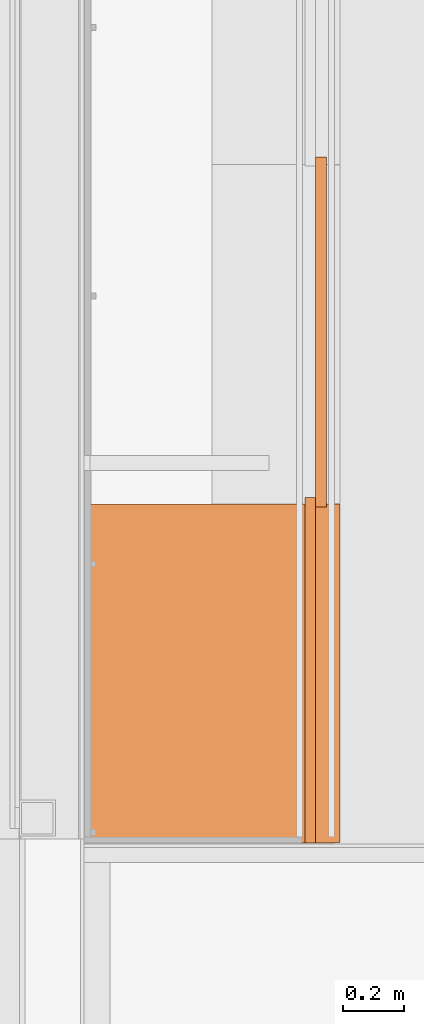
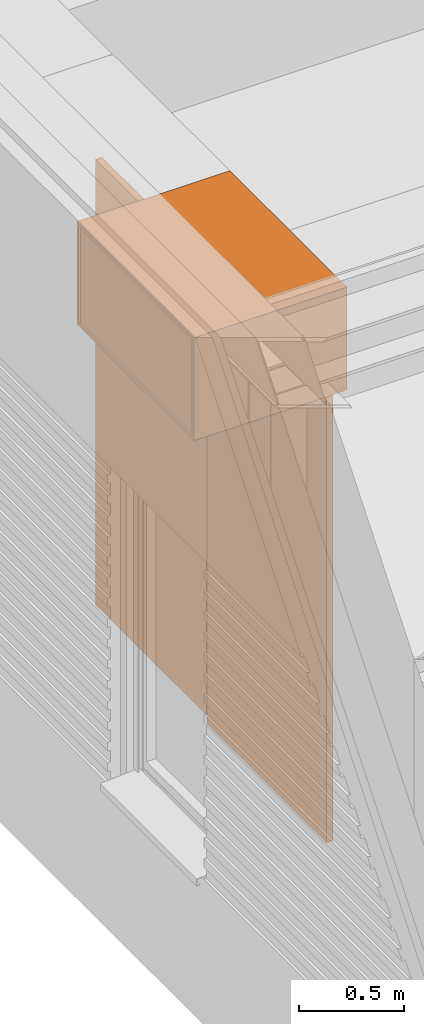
# One storey, part 121 of 137: 3 proxies.
"""IFC2X3 building model written with IfcOpenShell, lengths in millimetres."""

from ifc_helpers import new_model, entity, si_unit, converted_unit, derived_unit, money_unit, direction, frame, origin_with_axes, place, context, subcontext, project, spatial, faceted_brep, source, transform, mapped, type_object, type_shapes, element, save


model = new_model("IFC2X3")

# Units and contexts
model_context = context("Model", 3, precision=0.01, world=origin_with_axes(), true_north=direction((0.0, 1.0)))
body_context = subcontext(model_context, "Body", "Model", "MODEL_VIEW")
ifc_project = project(units=[si_unit("LENGTHUNIT", "METRE", prefix="MILLI"), si_unit("AREAUNIT", "SQUARE_METRE"), si_unit("VOLUMEUNIT", "CUBIC_METRE"), converted_unit("PLANEANGLEUNIT", "DEGREE", entity("IfcPlaneAngleMeasure", 0.0174532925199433), si_unit("PLANEANGLEUNIT", "RADIAN"), dimensions=[0, 0, 0, 0, 0, 0, 0]), money_unit("EUR"), converted_unit("TIMEUNIT", "Year", entity("IfcTimeMeasure", 31556926.0), si_unit("TIMEUNIT", "SECOND"), dimensions=[0, 0, 1, 0, 0, 0, 0]), si_unit("MASSUNIT", "GRAM", prefix="KILO"), si_unit("THERMODYNAMICTEMPERATUREUNIT", "DEGREE_CELSIUS"), si_unit("LUMINOUSINTENSITYUNIT", "LUMEN"), si_unit("ENERGYUNIT", "JOULE", prefix="MEGA"), derived_unit("THERMALCONDUCTANCEUNIT", [(si_unit("POWERUNIT", "WATT"), 1), (si_unit("LENGTHUNIT", "METRE"), -1), (si_unit("THERMODYNAMICTEMPERATUREUNIT", "KELVIN"), -1)]), derived_unit("SPECIFICHEATCAPACITYUNIT", [(si_unit("ENERGYUNIT", "JOULE"), 1), (si_unit("MASSUNIT", "GRAM", prefix="KILO"), -1), (si_unit("THERMODYNAMICTEMPERATUREUNIT", "KELVIN"), -1)]), derived_unit("MASSDENSITYUNIT", [(si_unit("MASSUNIT", "GRAM", prefix="KILO"), 1), (si_unit("VOLUMEUNIT", "CUBIC_METRE"), -1)])], contexts=[model_context])

# Site, building, storey
site_placement = place(None, origin_with_axes())
site = spatial("IfcSite", under=ifc_project, at=site_placement, Name="Site", CompositionType="ELEMENT")
building_placement = place(site_placement, origin_with_axes())
building = spatial("IfcBuilding", under=site, at=building_placement, Name="Naam gebouw", CompositionType="ELEMENT")
storey_placement = place(building_placement, frame((0.0, 0.0, 3960.0), z_axis=(0.0, 0.0, 1.0), x_axis=(1.0, 0.0, 0.0)))
storey = spatial("IfcBuildingStorey", under=building, at=storey_placement, Name="1e verdieping", CompositionType="ELEMENT", Elevation=3960.0)

# Proxies
building_element_proxy_type_1 = type_object("IfcBuildingElementProxyType", Name="gevelbekleding", PredefinedType="NOTDEFINED")
shared_shape_1 = source(origin_with_axes(), body_context, "Body", "Brep", [
    faceted_brep([(577.5, 0.0, 0.0), (577.5, -35.0, 0.0), (572.5, -35.0, 0.0), (572.5, 0.0, 0.0), (577.5, 0.0, 2600.0), (577.5, -35.0, 2600.0), (572.5, -35.0, 2600.0), (572.5, 0.0, 2600.0)], [[[0, 1, 2, 3]], [[4, 5, 1, 0]], [[1, 5, 6, 2]], [[3, 2, 6, 7]], [[0, 3, 7, 4]], [[7, 6, 5, 4]]]),
    faceted_brep([(-577.5, 0.0, 0.0), (-577.5, -35.0, 0.0), (-577.5, -35.0, 2600.0), (-577.5, 0.0, 2600.0), (-572.5000000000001, 0.0, 0.0), (-572.5000000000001, -35.0, 0.0), (-572.5000000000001, -35.0, 2600.0), (-572.5000000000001, 0.0, 2600.0)], [[[0, 1, 2, 3]], [[4, 5, 1, 0]], [[1, 5, 6, 2]], [[3, 2, 6, 7]], [[0, 3, 7, 4]], [[7, 6, 5, 4]]]),
    faceted_brep([(577.5, 0.0, 0.0), (577.5, -35.0, 0.0), (-577.5, -35.0, 0.0), (-577.5, 0.0, 0.0), (577.5, 0.0, 2600.0), (577.5, -35.0, 2600.0), (-577.5, -35.0, 2600.0), (-577.5, 0.0, 2600.0)], [[[0, 1, 2, 3]], [[4, 5, 1, 0]], [[1, 5, 6, 2]], [[3, 2, 6, 7]], [[0, 3, 7, 4]], [[7, 6, 5, 4]]]),
])
proxy_1_placement = place(storey_placement, frame((1014.000000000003, 25592.99991880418, 0.0), z_axis=(0.0, 0.0, 1.0), x_axis=(0.0, -1.0, 0.0)))
element("IfcBuildingElementProxy", 1, at=proxy_1_placement, inside=storey, type_object=building_element_proxy_type_1, Name="_-", context=body_context, shape_type="MappedRepresentation", body=[
    mapped(shared_shape_1, transform((577.5000000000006, 0.0, 0.0))),
])
shared_shape_2 = source(origin_with_axes(), body_context, "Body", "Brep", [
    faceted_brep([(-570.0, 0.0, 0.0), (-565.0, 0.0, 0.0), (-565.0, -35.0, 0.0), (-570.0, -35.0, 0.0), (-570.0, 0.0, 2600.0), (-565.0, 0.0, 2600.0), (-565.0, -35.0, 2600.0), (-570.0, -35.0, 2600.0)], [[[0, 1, 2, 3]], [[0, 4, 5, 1]], [[1, 5, 6, 2]], [[3, 2, 6, 7]], [[4, 0, 3, 7]], [[5, 4, 7, 6]]]),
    faceted_brep([(570.0, 0.0, 0.0), (570.0, 0.0, 2600.0), (570.0, -35.0, 2600.0), (570.0, -35.0, 0.0), (565.0000000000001, 0.0, 0.0), (565.0000000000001, 0.0, 2600.0), (565.0000000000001, -35.0, 2600.0), (565.0000000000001, -35.0, 0.0)], [[[0, 1, 2, 3]], [[0, 4, 5, 1]], [[1, 5, 6, 2]], [[3, 2, 6, 7]], [[4, 0, 3, 7]], [[5, 4, 7, 6]]]),
    faceted_brep([(-570.0, 0.0, 0.0), (570.0, 0.0, 0.0), (570.0, -35.0, 0.0), (-570.0, -35.0, 0.0), (-570.0, 0.0, 2600.0), (570.0, 0.0, 2600.0), (570.0, -35.0, 2600.0), (-570.0, -35.0, 2600.0)], [[[0, 1, 2, 3]], [[0, 4, 5, 1]], [[1, 5, 6, 2]], [[3, 2, 6, 7]], [[4, 0, 3, 7]], [[5, 4, 7, 6]]]),
])
type_shapes(building_element_proxy_type_1, [shared_shape_1, shared_shape_2])
proxy_2_placement = place(storey_placement, frame((1014.000000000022, 24467.99984810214, 0.0), z_axis=(0.0, 0.0, 1.0), x_axis=(0.0, -1.0, 0.0)))
element("IfcBuildingElementProxy", 2, at=proxy_2_placement, inside=storey, type_object=building_element_proxy_type_1, Name="_-", context=body_context, shape_type="MappedRepresentation", body=[
    mapped(shared_shape_2, transform((570.0000000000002, -34.99999999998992, 0.0))),
])
building_element_proxy_type_2 = type_object("IfcBuildingElementProxyType", Name="Onderkast recht 26", PredefinedType="NOTDEFINED")
shared_shape_3 = source(origin_with_axes(), body_context, "Body", "Brep", [
    faceted_brep([(-1.0, -827.0, 1.0), (-1.0, -845.0, 1.000000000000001), (-1119.000141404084, -845.0, 1.000000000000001), (-1119.000141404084, -827.0, 1.0), (-1.0, -827.0, 599.0), (-1.0, -845.0, 599.0), (-1119.000141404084, -845.0, 599.0), (-1119.000141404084, -827.0, 599.0)], [[[0, 1, 2, 3]], [[4, 5, 1, 0]], [[1, 5, 6, 2]], [[3, 2, 6, 7]], [[0, 3, 7, 4]], [[7, 6, 5, 4]]]),
    faceted_brep([(-18.0, -827.0, 0.0), (-18.0, -827.0, 18.0), (-1102.000141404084, -827.0, 18.0), (-1102.000141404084, -827.0, 0.0), (-18.0, 0.0, 0.0), (-18.0, 0.0, 18.0), (-1102.000141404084, 0.0, 18.0), (-1102.000141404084, 0.0, 0.0)], [[[0, 1, 2, 3]], [[4, 5, 1, 0]], [[1, 5, 6, 2]], [[3, 2, 6, 7]], [[0, 3, 7, 4]], [[7, 6, 5, 4]]]),
    faceted_brep([(-18.0, -827.0, 582.0), (-18.0, -827.0, 600.0), (-1102.000141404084, -827.0, 600.0), (-1102.000141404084, -827.0, 582.0), (-18.0, 0.0, 582.0), (-18.0, 0.0, 600.0), (-1102.000141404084, 0.0, 600.0), (-1102.000141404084, 0.0, 582.0)], [[[0, 1, 2, 3]], [[4, 5, 1, 0]], [[1, 5, 6, 2]], [[3, 2, 6, 7]], [[0, 3, 7, 4]], [[7, 6, 5, 4]]]),
    faceted_brep([(0.0, 0.0, 0.0), (0.0, 0.0, 600.0), (0.0, -827.0, 600.0), (0.0, -827.0, 0.0), (-18.0, 0.0, 0.0), (-18.0, 0.0, 600.0), (-18.0, -827.0, 600.0), (-18.0, -827.0, 0.0)], [[[0, 1, 2, 3]], [[4, 5, 1, 0]], [[1, 5, 6, 2]], [[3, 2, 6, 7]], [[0, 3, 7, 4]], [[7, 6, 5, 4]]]),
    faceted_brep([(-1120.000141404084, -827.0, 0.0), (-1120.000141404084, -827.0, 600.0), (-1120.000141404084, 0.0, 600.0), (-1120.000141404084, 0.0, 0.0), (-1102.000141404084, -827.0, 0.0), (-1102.000141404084, -827.0, 600.0), (-1102.000141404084, 0.0, 600.0), (-1102.000141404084, 0.0, 0.0)], [[[0, 1, 2, 3]], [[4, 5, 1, 0]], [[1, 5, 6, 2]], [[3, 2, 6, 7]], [[0, 3, 7, 4]], [[7, 6, 5, 4]]]),
    faceted_brep([(-1102.000141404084, -9.0, 18.0), (-1102.000141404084, -9.0, 582.0), (-18.00000000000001, -9.0, 582.0), (-18.00000000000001, -9.0, 18.0), (-1102.000141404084, -18.0, 18.0), (-1102.000141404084, -18.0, 582.0), (-18.00000000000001, -18.0, 582.0), (-18.00000000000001, -18.0, 18.0)], [[[0, 1, 2, 3]], [[4, 5, 1, 0]], [[1, 5, 6, 2]], [[3, 2, 6, 7]], [[0, 3, 7, 4]], [[7, 6, 5, 4]]]),
])
type_shapes(building_element_proxy_type_2, [shared_shape_3])
proxy_3_placement = place(storey_placement, frame((214.0000000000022, 24447.99942285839, 2600.0), z_axis=(0.0, 0.0, 1.0), x_axis=(0.0, 1.0, 0.0)))
element("IfcBuildingElementProxy", 3, at=proxy_3_placement, inside=storey, type_object=building_element_proxy_type_2, Name="_Leeg", context=body_context, shape_type="MappedRepresentation", body=[
    mapped(shared_shape_3, transform((0.0, 0.0, 0.0))),
])

save(model, "model.ifc")
